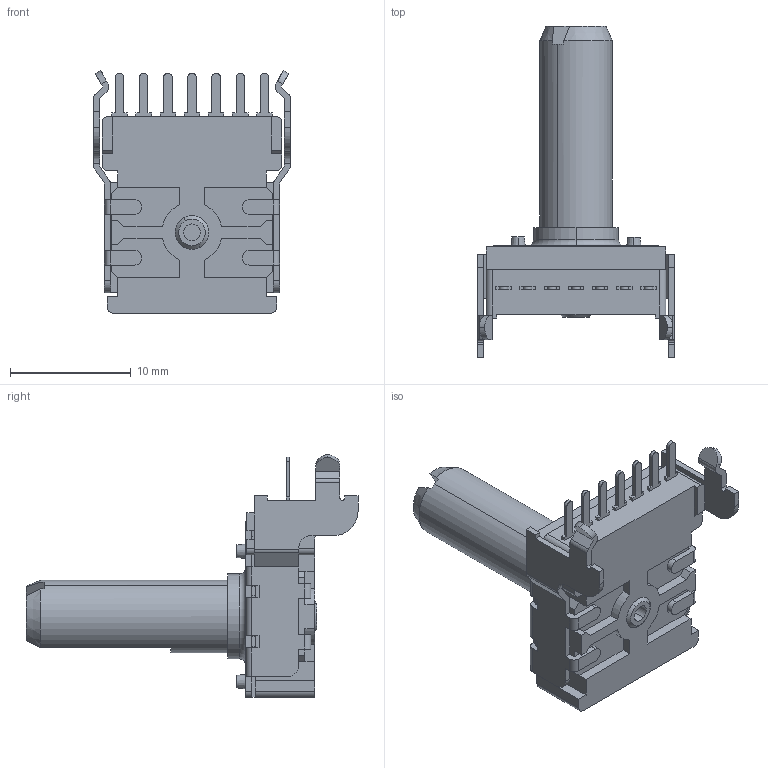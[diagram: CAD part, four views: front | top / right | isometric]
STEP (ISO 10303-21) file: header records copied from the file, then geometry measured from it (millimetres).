
FILE_DESCRIPTION (( 'STEP AP203' ), '1' );
FILE_NAME ('P140KV-F25.STEP', '2026-09-15T14:56:08', ( '' ), ( '' ), 'SwSTEP 2.0', 'SolidWorks 2026', '' );
FILE_SCHEMA (( 'CONFIG_CONTROL_DESIGN' ));
Length unit declared in the file: millimetre
Products named in the file (7): Housing; H-terminal; F25; P140KV-F25; KV_housing; spring_plate; KV bracket
Assembly tree (12 placements, depth 3):
  P140KV-F25
    KV_housing
      Housing
      H-terminal  x7
    F25
    spring_plate
    KV bracket
Bounding box: 16.3 x 27.5 x 20.1 mm (x, y, z)
Volume: 1433.2 mm3; surface area: 2733 mm2
Topology: 11 solids, 11 shells, 522 faces, 1435 edges, 936 vertices
Faces by surface type: plane 360, cylinder 140, cone 8, bspline 8, torus 6
Entity records: 15800 total; most frequent: CARTESIAN_POINT 2797, ORIENTED_EDGE 2582, DIRECTION 2473, EDGE_CURVE 1291, LINE 961, VECTOR 961, VERTEX_POINT 840, AXIS2_PLACEMENT_3D 756
